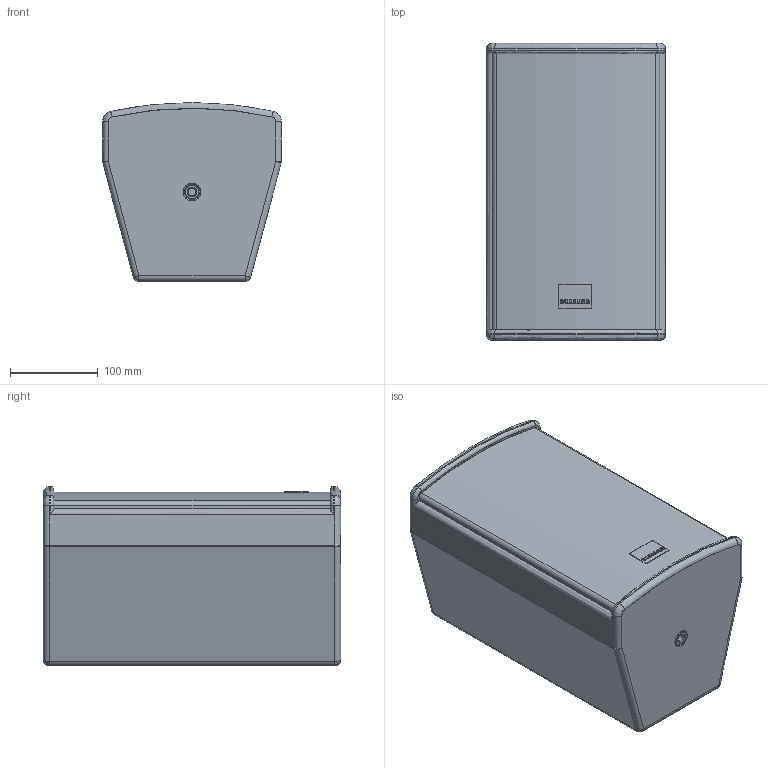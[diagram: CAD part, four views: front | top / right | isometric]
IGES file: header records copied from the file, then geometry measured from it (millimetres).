
Start section: SolidWorks IGES file using analytic representation for surfaces
Global section: file name: C:\Dokumente und Einstellungen\PC_Fabian\Desktop\3d_Dateien_Homepage\A-Serie\SEEBURG_A1.IGS; native system: SolidWorks 2009; preprocessor: SolidWorks 2009; author: PC_Fabian; date: 120927.150727; units: millimetre
Bounding box: 204 x 339 x 204 mm (x, y, z)
Surface area: 692843.2 mm2 (no closed solid volume)
Topology: 0 solids, 0 shells, 312 faces, 2883 edges, 2881 vertices
Faces by surface type: revolution 159, bspline 153
